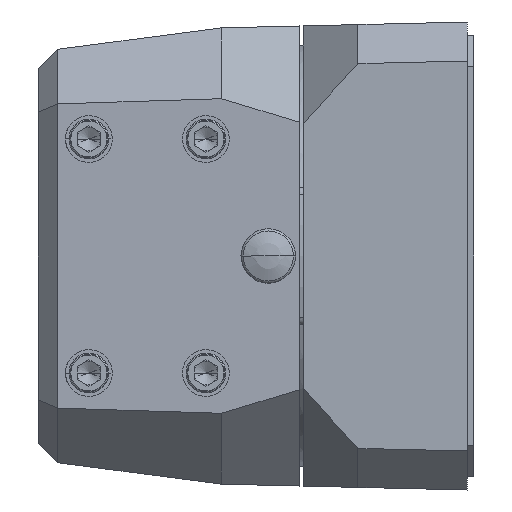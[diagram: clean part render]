
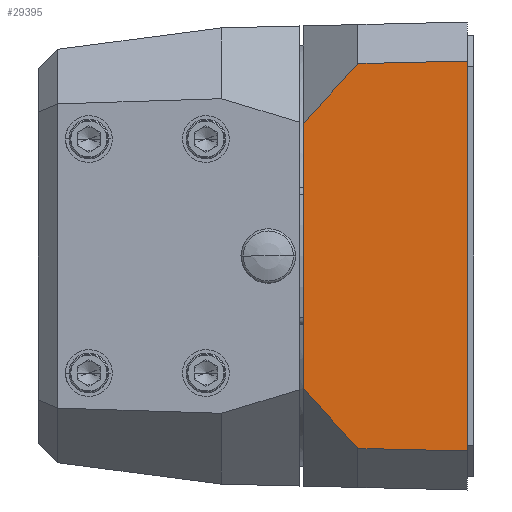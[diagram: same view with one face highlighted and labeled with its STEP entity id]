
A CAD part, left-side view. The second image highlights one B-rep face of the part: STEP entity #29395.
In plain terms, the highlighted planar face has unit normal (-1, 0.024, 0).
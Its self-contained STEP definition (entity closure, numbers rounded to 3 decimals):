
#22665=DIRECTION('',(0.,0.,1.));
#22666=VECTOR('',#22665,100.);
#22667=CARTESIAN_POINT('',(-60.,0.,-50.));
#22668=LINE('',#22667,#22666);
#22998=DIRECTION('',(0.,0.,1.));
#22999=VECTOR('',#22998,68.);
#23000=CARTESIAN_POINT('',(-59.,42.,-34.));
#23001=LINE('',#23000,#22999);
#23913=DIRECTION('',(0.016,0.674,0.738));
#23914=VECTOR('',#23913,20.766);
#23915=CARTESIAN_POINT('',(-59.333,28.,-49.333));
#23916=LINE('',#23915,#23914);
#23920=DIRECTION('',(0.016,0.674,-0.738));
#23921=VECTOR('',#23920,20.766);
#23922=CARTESIAN_POINT('',(-59.333,28.,49.333));
#23923=LINE('',#23922,#23921);
#23927=DIRECTION('',(0.024,0.999,-0.024));
#23928=VECTOR('',#23927,28.016);
#23929=CARTESIAN_POINT('',(-60.,0.,50.));
#23930=LINE('',#23929,#23928);
#23934=DIRECTION('',(0.024,0.999,0.024));
#23935=VECTOR('',#23934,28.016);
#23936=CARTESIAN_POINT('',(-60.,0.,-50.));
#23937=LINE('',#23936,#23935);
#27448=CARTESIAN_POINT('',(-60.,0.,50.));
#27450=VERTEX_POINT('',#27448);
#27452=CARTESIAN_POINT('',(-59.,42.,34.));
#27454=VERTEX_POINT('',#27452);
#27456=CARTESIAN_POINT('',(-59.333,28.,49.333));
#27457=VERTEX_POINT('',#27456);
#27472=CARTESIAN_POINT('',(-60.,0.,-50.));
#27474=VERTEX_POINT('',#27472);
#27476=CARTESIAN_POINT('',(-59.,42.,-34.));
#27478=VERTEX_POINT('',#27476);
#27480=CARTESIAN_POINT('',(-59.333,28.,-49.333));
#27481=VERTEX_POINT('',#27480);
#29382=CARTESIAN_POINT('',(-59.5,21.,0.));
#29383=DIRECTION('',(-1.,0.024,0.));
#29384=DIRECTION('',(0.,0.,1.));
#29385=AXIS2_PLACEMENT_3D('',#29382,#29383,#29384);
#29386=PLANE('',#29385);
#29387=ORIENTED_EDGE('',*,*,#28170,.T.);
#29388=ORIENTED_EDGE('',*,*,#28216,.T.);
#29389=ORIENTED_EDGE('',*,*,#29364,.F.);
#29390=ORIENTED_EDGE('',*,*,#29375,.F.);
#29391=ORIENTED_EDGE('',*,*,#28023,.F.);
#29392=ORIENTED_EDGE('',*,*,#28140,.T.);
#29393=EDGE_LOOP('',(#29387,#29388,#29389,#29390,#29391,#29392));
#29394=FACE_OUTER_BOUND('',#29393,.F.);
#28023=EDGE_CURVE('',#27474,#27450,#22668,.T.);
#28140=EDGE_CURVE('',#27474,#27481,#23937,.T.);
#28170=EDGE_CURVE('',#27481,#27478,#23916,.T.);
#28216=EDGE_CURVE('',#27478,#27454,#23001,.T.);
#29364=EDGE_CURVE('',#27457,#27454,#23923,.T.);
#29375=EDGE_CURVE('',#27450,#27457,#23930,.T.);
#29395=ADVANCED_FACE('',(#29394),#29386,.T.);
